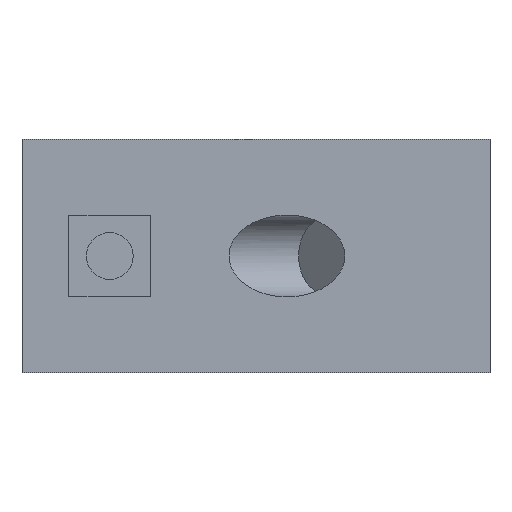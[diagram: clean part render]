
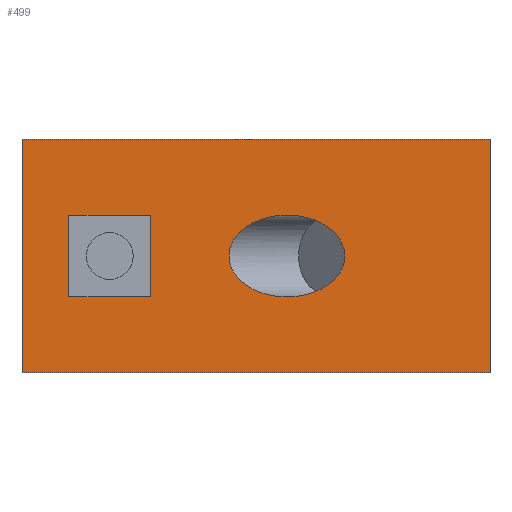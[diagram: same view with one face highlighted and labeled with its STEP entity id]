
A CAD part, front view. The second image highlights one B-rep face of the part: STEP entity #499.
In plain terms, the highlighted planar face has unit normal (0, -1, 0).
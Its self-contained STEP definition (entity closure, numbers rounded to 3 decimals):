
#140=CARTESIAN_POINT('',(9.899,0.,0.));
#141=VERTEX_POINT('',#140);
#142=CARTESIAN_POINT('',(0.,0.,0.0));
#143=DIRECTION('',(0.0,1.0,0.0));
#144=DIRECTION('',(-1.0,0.0,0.0));
#145=AXIS2_PLACEMENT_3D('',#142,#143,#144);
#146=ELLIPSE('',#145,9.899,7.);
#147=EDGE_CURVE('',#141,#141,#146,.T.);
#212=CARTESIAN_POINT('',(-25.784,0.,0.0));
#213=VERTEX_POINT('',#212);
#214=CARTESIAN_POINT('',(-30.284,0.,0.0));
#215=DIRECTION('',(0.0,1.0,0.0));
#216=DIRECTION('',(1.0,0.0,0.0));
#217=AXIS2_PLACEMENT_3D('',#214,#215,#216);
#218=CIRCLE('',#217,4.5);
#219=EDGE_CURVE('',#213,#213,#218,.T.);
#229=CARTESIAN_POINT('',(34.716,0.,-20.));
#230=VERTEX_POINT('',#229);
#239=CARTESIAN_POINT('',(-45.284,0.,-20.));
#240=VERTEX_POINT('',#239);
#241=CARTESIAN_POINT('',(-45.284,0.,-20.));
#242=DIRECTION('',(1.0,0.0,0.0));
#243=VECTOR('',#242,80.);
#244=LINE('',#241,#243);
#245=EDGE_CURVE('',#240,#230,#244,.T.);
#301=CARTESIAN_POINT('',(-45.284,0.,20.));
#302=VERTEX_POINT('',#301);
#318=CARTESIAN_POINT('',(-45.284,0.,20.));
#319=DIRECTION('',(0.0,0.0,-1.0));
#320=VECTOR('',#319,40.);
#321=LINE('',#318,#320);
#322=EDGE_CURVE('',#302,#240,#321,.T.);
#458=CARTESIAN_POINT('',(34.716,0.,20.));
#459=VERTEX_POINT('',#458);
#466=CARTESIAN_POINT('',(34.716,0.,-20.));
#467=DIRECTION('',(0.0,0.0,1.0));
#468=VECTOR('',#467,40.);
#469=LINE('',#466,#468);
#470=EDGE_CURVE('',#230,#459,#469,.T.);
#477=CARTESIAN_POINT('',(34.716,0.,0.0));
#478=DIRECTION('',(0.0,-1.0,0.0));
#479=DIRECTION('',(0.0,0.0,-1.0));
#480=AXIS2_PLACEMENT_3D('',#477,#478,#479);
#481=PLANE('',#480);
#482=CARTESIAN_POINT('',(34.716,0.,20.));
#483=DIRECTION('',(-1.0,0.0,0.0));
#484=VECTOR('',#483,80.);
#485=LINE('',#482,#484);
#486=EDGE_CURVE('',#459,#302,#485,.T.);
#487=ORIENTED_EDGE('',*,*,#486,.T.);
#488=ORIENTED_EDGE('',*,*,#322,.T.);
#489=ORIENTED_EDGE('',*,*,#245,.T.);
#490=ORIENTED_EDGE('',*,*,#470,.T.);
#491=EDGE_LOOP('',(#487,#488,#489,#490));
#492=FACE_OUTER_BOUND('',#491,.T.);
#493=ORIENTED_EDGE('',*,*,#147,.T.);
#494=EDGE_LOOP('',(#493));
#495=FACE_BOUND('',#494,.T.);
#496=ORIENTED_EDGE('',*,*,#219,.T.);
#497=EDGE_LOOP('',(#496));
#498=FACE_BOUND('',#497,.T.);
#499=ADVANCED_FACE('',(#492,#495,#498),#481,.T.);
